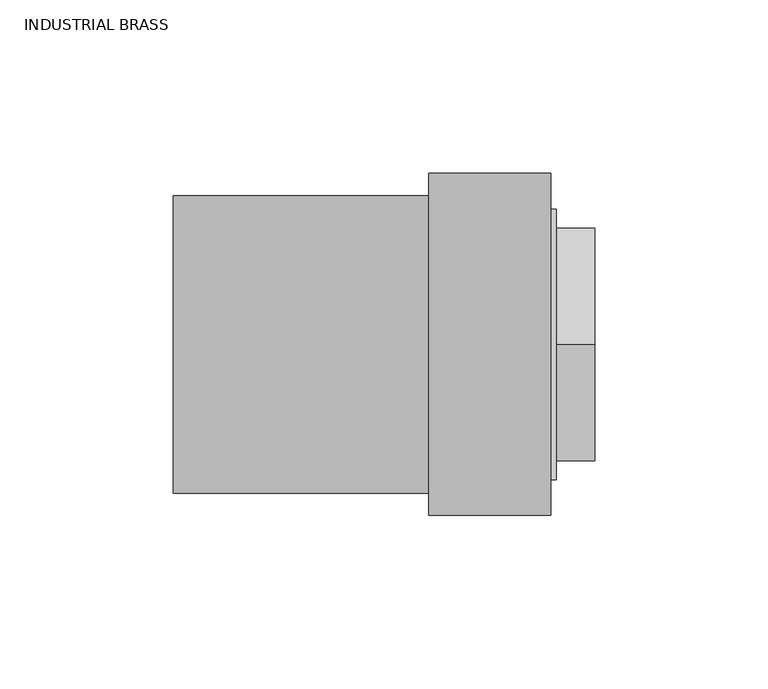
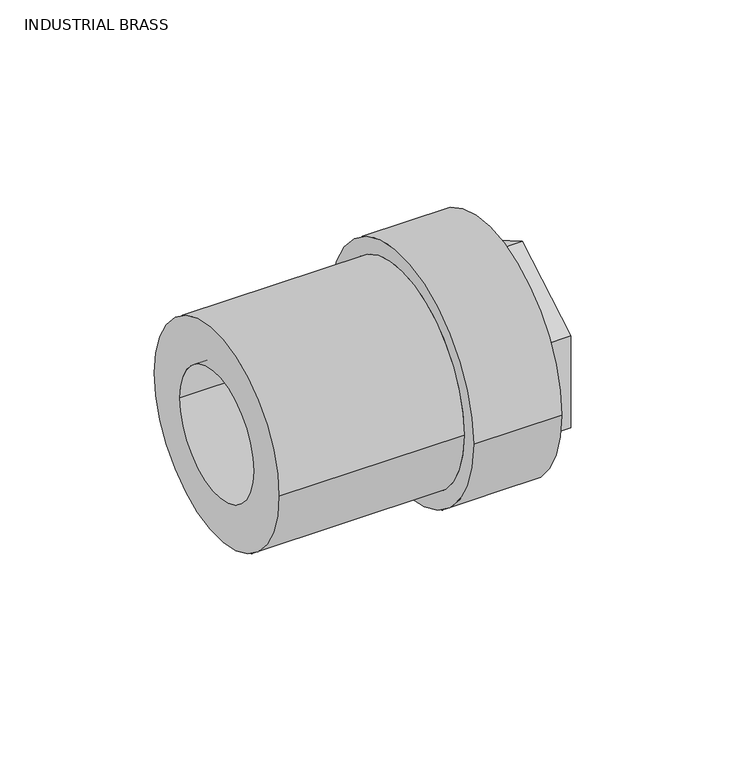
"""IFC4 building model written with IfcOpenShell, lengths in millimetres: pipe fitting geometry, Aquatherm - Flow Meter Well : INDUSTRIAL BRASS."""

from ifc_helpers import new_model, si_unit, frame, origin, place, context, project, spatial, polyline, circle_curve, source, transform, mapped, element, save
from ifc_brep_helpers import plane_surface, cylinder_surface, revolved_surface, advanced_brep


def industrial_brass_82b7ad46(model_context):
    return source(origin(), model_context, "Body", "AdvancedBrep", [
        advanced_brep(
        [(83.8835, 28.575, 0.0), (83.8835, -28.575, 0.0), (105.1163125, -28.575, 0.0), (105.1163125, 28.575, 0.0), (83.8835, 29.36875, 0.0), (83.8835, -29.36875, 0.0), (80.7085, 29.36875, 0.0), (80.7085, -29.36875, 0.0), (80.7085, 25.4, 0.0), (80.7085, -25.4, 0.0), (77.5335, 25.4, 0.0), (77.5335, -25.4, 0.0), (77.5335, 40.64, 0.0), (77.5335, -40.64, 0.0), (94.996, 40.64, 0.0), (94.996, -40.64, 0.0), (107.696, 29.36875, 0.0), (107.696, -29.36875, 0.0), (107.696, -33.528, 0.0), (107.696, -33.528, -19.3573998), (107.696, 0.0, -38.7147997), (107.696, 33.528, -19.3573998), (107.696, 33.528, 0.0), (107.696, 33.528, 19.3573998), (107.696, 0.0, 38.7147997), (107.696, -33.528, 19.3573998), (94.996, 38.989, 0.0), (94.996, -38.989, 0.0), (96.5835, 38.989, 0.0), (96.5835, -38.989, 0.0), (96.5835, 0.0, -38.7147997), (96.5835, -33.528, -19.3573998), (96.5835, -33.528, 19.3573998), (96.5835, 0.0, 38.7147997), (96.5835, 33.528, 19.3573998), (96.5835, 33.528, -19.3573998)],
        [
            (0, 1, circle_curve(frame((83.8835, 0.0, 0.0), z_axis=(-1.0, 0.0, 0.0), x_axis=(0.0, -1.0, 0.0)), 28.575)),
            (1, 2),
            (2, 3, circle_curve(frame((105.1163125, 0.0, 0.0), z_axis=(1.0, 0.0, 0.0), x_axis=(0.0, -1.0, 0.0)), 28.575)),
            (3, 0),
            (1, 0, circle_curve(frame((83.8835, 0.0, 0.0), z_axis=(-1.0, 0.0, 0.0), x_axis=(0.0, -1.0, 0.0)), 28.575)),
            (3, 2, circle_curve(frame((105.1163125, 0.0, 0.0), z_axis=(1.0, 0.0, 0.0), x_axis=(0.0, -1.0, 0.0)), 28.575)),
            (0, 4),
            (4, 5, circle_curve(frame((83.8835, 0.0, 0.0), z_axis=(-1.0, 0.0, 0.0), x_axis=(0.0, -1.0, 0.0)), 29.36875)),
            (5, 1),
            (5, 4, circle_curve(frame((83.8835, 0.0, 0.0), z_axis=(-1.0, 0.0, 0.0), x_axis=(0.0, -1.0, 0.0)), 29.36875)),
            (4, 6),
            (6, 7, circle_curve(frame((80.7085, 0.0, 0.0), z_axis=(-1.0, 0.0, 0.0), x_axis=(0.0, -1.0, 0.0)), 29.36875)),
            (7, 5),
            (7, 6, circle_curve(frame((80.7085, 0.0, 0.0), z_axis=(-1.0, 0.0, 0.0), x_axis=(0.0, -1.0, 0.0)), 29.36875)),
            (6, 8),
            (8, 9, circle_curve(frame((80.7085, 0.0, 0.0), z_axis=(-1.0, 0.0, 0.0), x_axis=(0.0, -1.0, 0.0)), 25.4)),
            (9, 7),
            (9, 8, circle_curve(frame((80.7085, 0.0, 0.0), z_axis=(-1.0, 0.0, 0.0), x_axis=(0.0, -1.0, 0.0)), 25.4)),
            (8, 10),
            (10, 11, circle_curve(frame((77.5335, 0.0, 0.0), z_axis=(-1.0, 0.0, 0.0), x_axis=(0.0, -1.0, 0.0)), 25.4)),
            (11, 9),
            (11, 10, circle_curve(frame((77.5335, 0.0, 0.0), z_axis=(-1.0, 0.0, 0.0), x_axis=(0.0, -1.0, 0.0)), 25.4)),
            (10, 12),
            (12, 13, circle_curve(frame((77.5335, 0.0, 0.0), z_axis=(-1.0, 0.0, 0.0), x_axis=(0.0, -1.0, 0.0)), 40.64)),
            (13, 11),
            (13, 12, circle_curve(frame((77.5335, 0.0, 0.0), z_axis=(-1.0, 0.0, 0.0), x_axis=(0.0, -1.0, 0.0)), 40.64)),
            (12, 14),
            (14, 15, circle_curve(frame((94.996, 0.0, 0.0), z_axis=(-1.0, 0.0, 0.0), x_axis=(0.0, -1.0, 0.0)), 40.64)),
            (15, 13),
            (15, 14, circle_curve(frame((94.996, 0.0, 0.0), z_axis=(-1.0, 0.0, 0.0), x_axis=(0.0, -1.0, 0.0)), 40.64)),
            (16, 17, circle_curve(frame((107.696, 0.0, 0.0), z_axis=(-1.0, 0.0, 0.0), x_axis=(0.0, -1.0, 0.0)), 29.36875)),
            (17, 18),
            (18, 19),
            (19, 20),
            (20, 21),
            (21, 22),
            (22, 16),
            (17, 16, circle_curve(frame((107.696, 0.0, 0.0), z_axis=(-1.0, 0.0, 0.0), x_axis=(0.0, -1.0, 0.0)), 29.36875)),
            (22, 23),
            (23, 24),
            (24, 25),
            (25, 18),
            (2, 17),
            (16, 3),
            (14, 26),
            (26, 27, circle_curve(frame((94.996, 0.0, 0.0), z_axis=(-1.0, 0.0, 0.0), x_axis=(0.0, -1.0, 0.0)), 38.989)),
            (27, 15),
            (27, 26, circle_curve(frame((94.996, 0.0, 0.0), z_axis=(-1.0, 0.0, 0.0), x_axis=(0.0, -1.0, 0.0)), 38.989)),
            (26, 28),
            (28, 29, circle_curve(frame((96.5835, 0.0, 0.0), z_axis=(-1.0, 0.0, 0.0), x_axis=(0.0, -1.0, 0.0)), 38.989)),
            (29, 27),
            (29, 28, circle_curve(frame((96.5835, 0.0, 0.0), z_axis=(-1.0, 0.0, 0.0), x_axis=(0.0, -1.0, 0.0)), 38.989)),
            (30, 31),
            (31, 32),
            (32, 33),
            (33, 34),
            (34, 35),
            (35, 30),
            (35, 21),
            (20, 30),
            (34, 23),
            (33, 24),
            (32, 25),
            (31, 19),
        ],
        [
            revolved_surface(polyline([(105.1163125, -28.575, 0.0), (83.8835, -28.575, 0.0)]), (109.5292251, 0.0, 0.0), (1.0, 0.0, 0.0)),
            plane_surface(frame((83.8835, 0.0, 0.0), z_axis=(-1.0, 0.0, 0.0), x_axis=(0.0, -1.0, 0.0))),
            revolved_surface(polyline([(83.8835, -29.36875, 0.0), (80.7085, -29.36875, 0.0)]), (109.5292251, 0.0, 0.0), (1.0, 0.0, 0.0)),
            plane_surface(frame((80.7085, 0.0, 0.0), z_axis=(1.0, 0.0, 0.0), x_axis=(0.0, -1.0, 0.0))),
            revolved_surface(polyline([(80.7085, -25.4, 0.0), (77.5335, -25.4, 0.0)]), (109.5292251, 0.0, 0.0), (1.0, 0.0, 0.0)),
            plane_surface(frame((77.5335, 0.0, 0.0), z_axis=(-1.0, 0.0, 0.0), x_axis=(0.0, -1.0, 0.0))),
            cylinder_surface(frame((109.5292251, 0.0, 0.0), z_axis=(1.0, 0.0, 0.0), x_axis=(0.0, -1.0, 0.0)), 40.64),
            plane_surface(frame((107.696, 0.0, 0.0), z_axis=(1.0, 0.0, 0.0), x_axis=(0.0, -1.0, 0.0))),
            revolved_surface(polyline([(107.696, -29.36875, 0.0), (105.1163125, -28.575, 0.0)]), (109.5292251, 0.0, 0.0), (1.0, 0.0, 0.0)),
            plane_surface(frame((94.996, 0.0, 0.0), z_axis=(1.0, 0.0, 0.0), x_axis=(0.0, -1.0, 0.0))),
            cylinder_surface(frame((109.5292251, 0.0, 0.0), z_axis=(1.0, 0.0, 0.0), x_axis=(0.0, -1.0, 0.0)), 38.989),
            plane_surface(frame((96.5835, 33.528, -19.3573998), z_axis=(1.0, 0.0, 0.0), x_axis=(0.0, 0.8660254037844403, 0.49999999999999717))),
            plane_surface(frame((96.5835, 0.0, -38.7147997), z_axis=(0.0, 0.49999999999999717, -0.8660254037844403), x_axis=(1.0, 0.0, 0.0))),
            plane_surface(frame((96.5835, 33.528, -19.3573998), z_axis=(0.0, 1.0, 0.0), x_axis=(1.0, 0.0, 0.0))),
            plane_surface(frame((96.5835, 33.528, 19.3573998), z_axis=(0.0, 0.5000000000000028, 0.8660254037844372), x_axis=(1.0, 0.0, 0.0))),
            plane_surface(frame((96.5835, 0.0, 38.7147997), z_axis=(0.0, -0.49999999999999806, 0.8660254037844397), x_axis=(1.0, 0.0, 0.0))),
            plane_surface(frame((96.5835, -33.528, 19.3573998), z_axis=(0.0, -1.0, 0.0), x_axis=(1.0, 0.0, 0.0))),
            plane_surface(frame((96.5835, -33.528, -19.3573998), z_axis=(0.0, -0.5000000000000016, -0.8660254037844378), x_axis=(1.0, 0.0, 0.0))),
        ],
        [
            (0, [[1, 2, 3, 4]]),
            (0, [[-2, 5, -4, 6]]),
            (1, [[-1, 7, 8, 9]]),
            (1, [[-5, -9, 10, -7]]),
            (2, [[-8, 11, 12, 13]]),
            (2, [[-10, -13, 14, -11]]),
            (3, [[-12, 15, 16, 17]]),
            (3, [[-14, -17, 18, -15]]),
            (4, [[-16, 19, 20, 21]]),
            (4, [[-18, -21, 22, -19]]),
            (5, [[-20, 23, 24, 25]]),
            (5, [[-22, -25, 26, -23]]),
            (6, [[-24, 27, 28, 29]]),
            (6, [[-26, -29, 30, -27]]),
            (7, [[31, 32, 33, 34, 35, 36, 37]]),
            (7, [[38, -37, 39, 40, 41, 42, -32]]),
            (8, [[-3, 43, -31, 44]]),
            (8, [[-6, -44, -38, -43]]),
            (9, [[-28, 45, 46, 47]]),
            (9, [[-30, -47, 48, -45]]),
            (10, [[-46, 49, 50, 51]]),
            (10, [[-48, -51, 52, -49]]),
            (11, [[-50, -52], [53, 54, 55, 56, 57, 58]]),
            (12, [[-58, 59, -35, 60]]),
            (13, [[-57, 61, -39, -36, -59]]),
            (14, [[-56, 62, -40, -61]]),
            (15, [[-55, 63, -41, -62]]),
            (16, [[-54, 64, -33, -42, -63]]),
            (17, [[-53, -60, -34, -64]]),
        ],
    ),
        advanced_brep(
        [(-13.7297297, 42.8625, 0.0), (-13.7297297, -42.8625, 0.0), (-13.7297297, 25.4, 0.0), (-13.7297297, -25.4, 0.0), (77.5335, 40.64, 0.0), (77.5335, -40.64, 0.0), (77.5335, 25.4, 0.0), (77.5335, -25.4, 0.0), (0.0, 42.8625, 0.0), (59.944, 42.8625, 0.0), (59.944, -42.8625, 0.0), (0.0, -42.8625, 0.0), (94.996, 49.276, 0.0), (94.996, -49.276, 0.0), (94.996, 40.64, 0.0), (94.996, -40.64, 0.0), (59.944, 49.276, 0.0), (59.944, -49.276, 0.0)],
        [
            (0, 1, circle_curve(frame((-13.7297297, 0.0, 0.0), z_axis=(-1.0, 0.0, 0.0), x_axis=(0.0, -1.0, 0.0)), 42.8625)),
            (1, 0, circle_curve(frame((-13.7297297, 0.0, 0.0), z_axis=(-1.0, 0.0, 0.0), x_axis=(0.0, -1.0, 0.0)), 42.8625)),
            (2, 3, circle_curve(frame((-13.7297297, 0.0, 0.0), z_axis=(1.0, 0.0, 0.0), x_axis=(0.0, -1.0, 0.0)), 25.4)),
            (3, 2, circle_curve(frame((-13.7297297, 0.0, 0.0), z_axis=(1.0, 0.0, 0.0), x_axis=(0.0, -1.0, 0.0)), 25.4)),
            (4, 5, circle_curve(frame((77.5335, 0.0, 0.0), z_axis=(1.0, 0.0, 0.0), x_axis=(0.0, -1.0, 0.0)), 40.64)),
            (5, 4, circle_curve(frame((77.5335, 0.0, 0.0), z_axis=(1.0, 0.0, 0.0), x_axis=(0.0, -1.0, 0.0)), 40.64)),
            (6, 7, circle_curve(frame((77.5335, 0.0, 0.0), z_axis=(-1.0, 0.0, 0.0), x_axis=(0.0, -1.0, 0.0)), 25.4)),
            (7, 6, circle_curve(frame((77.5335, 0.0, 0.0), z_axis=(-1.0, 0.0, 0.0), x_axis=(0.0, -1.0, 0.0)), 25.4)),
            (2, 6),
            (7, 3),
            (0, 8),
            (8, 9),
            (9, 10, circle_curve(frame((59.944, 0.0, 0.0), z_axis=(-1.0, 0.0, 0.0), x_axis=(0.0, -1.0, 0.0)), 42.8625)),
            (10, 11),
            (11, 1),
            (10, 9, circle_curve(frame((59.944, 0.0, 0.0), z_axis=(-1.0, 0.0, 0.0), x_axis=(0.0, -1.0, 0.0)), 42.8625)),
            (12, 13, circle_curve(frame((94.996, 0.0, 0.0), z_axis=(1.0, 0.0, 0.0), x_axis=(0.0, -1.0, 0.0)), 49.276)),
            (13, 12, circle_curve(frame((94.996, 0.0, 0.0), z_axis=(1.0, 0.0, 0.0), x_axis=(0.0, -1.0, 0.0)), 49.276)),
            (14, 15, circle_curve(frame((94.996, 0.0, 0.0), z_axis=(-1.0, 0.0, 0.0), x_axis=(0.0, -1.0, 0.0)), 40.64)),
            (15, 14, circle_curve(frame((94.996, 0.0, 0.0), z_axis=(-1.0, 0.0, 0.0), x_axis=(0.0, -1.0, 0.0)), 40.64)),
            (16, 17, circle_curve(frame((59.944, 0.0, 0.0), z_axis=(-1.0, 0.0, 0.0), x_axis=(0.0, -1.0, 0.0)), 49.276)),
            (17, 16, circle_curve(frame((59.944, 0.0, 0.0), z_axis=(-1.0, 0.0, 0.0), x_axis=(0.0, -1.0, 0.0)), 49.276)),
            (15, 5),
            (4, 14),
            (13, 17),
            (16, 12),
        ],
        [
            plane_surface(frame((-13.7297297, -25.4, 0.0), z_axis=(-1.0, 0.0, 0.0), x_axis=(0.0, 0.0, -1.0))),
            plane_surface(frame((77.5335, -25.4, 0.0), z_axis=(1.0, 0.0, 0.0), x_axis=(0.0, 0.0, 1.0))),
            revolved_surface(polyline([(77.5335, -25.4, 0.0), (-13.729729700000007, -25.4, 0.0)]), (77.5335, 0.0, 0.0), (1.0, 0.0, 0.0)),
            cylinder_surface(frame((0.0, 0.0, 0.0), z_axis=(-1.0, 0.0, 0.0), x_axis=(0.0, -1.0, 0.0)), 42.8625),
            plane_surface(frame((94.996, -40.64, 0.0), z_axis=(1.0, 0.0, 0.0), x_axis=(0.0, 0.0, 1.0))),
            plane_surface(frame((59.944, -40.64, 0.0), z_axis=(-1.0, 0.0, 0.0), x_axis=(0.0, 0.0, -1.0))),
            revolved_surface(polyline([(94.996, -40.64, 0.0), (77.5335, -40.64, 0.0)]), (94.996, 0.0, 0.0), (1.0, 0.0, 0.0)),
            cylinder_surface(frame((0.0, 0.0, 0.0), z_axis=(-1.0, 0.0, 0.0), x_axis=(0.0, -1.0, 0.0)), 49.276),
        ],
        [
            (0, [[1, 2], [3, 4]]),
            (1, [[5, 6], [7, 8]]),
            (2, [[-3, 9, -8, 10]]),
            (2, [[-4, -10, -7, -9]]),
            (3, [[-1, 11, 12, 13, 14, 15]]),
            (3, [[-2, -15, -14, 16, -12, -11]]),
            (4, [[17, 18], [19, 20]]),
            (5, [[21, 22], [-13, -16]]),
            (6, [[-20, 23, -5, 24]]),
            (6, [[-19, -24, -6, -23]]),
            (7, [[-18, 25, -21, 26]]),
            (7, [[-17, -26, -22, -25]]),
        ],
    ),
    ])


if __name__ == "__main__":
    model = new_model("IFC4")
    model_context = context("Model", 3, world=origin())
    ifc_project = project(units=[si_unit("LENGTHUNIT", "METRE", prefix="MILLI")], contexts=[model_context])
    site = spatial("IfcSite", under=ifc_project)
    building = spatial("IfcBuilding", under=site)
    placement = place(None, origin())
    industrial_brass_shape = industrial_brass_82b7ad46(model_context)
    element("IfcPipeFitting", 1, ObjectType="Aquatherm - Flow Meter Well : INDUSTRIAL BRASS", at=placement, inside=building, context=model_context, shape_type="MappedRepresentation", body=[
        mapped(industrial_brass_shape, transform((0.0, 0.0, 0.0), x_axis=(1.0, 0.0, 0.0), y_axis=(0.0, 1.0, 0.0), z_axis=(0.0, 0.0, 1.0))),
    ])
    save(model, "model.ifc")
